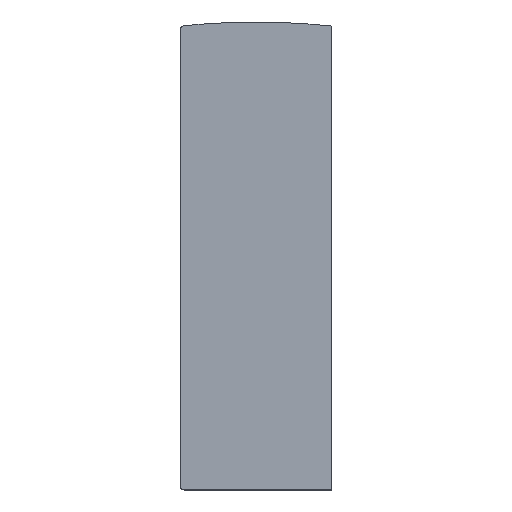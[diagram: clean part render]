
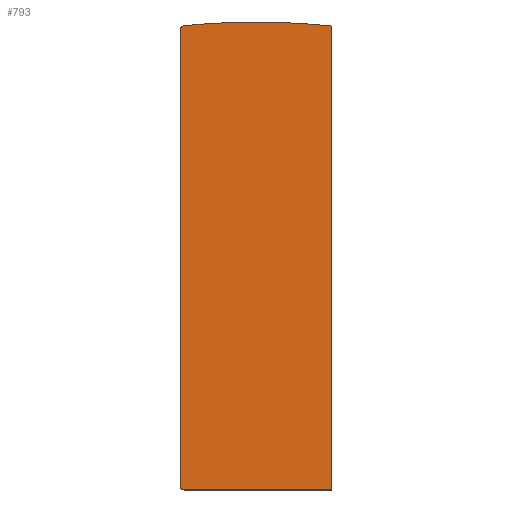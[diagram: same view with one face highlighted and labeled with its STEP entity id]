
A CAD part, top view. The second image highlights one B-rep face of the part: STEP entity #793.
In plain terms, the highlighted planar face has unit normal (0, 0, 1).
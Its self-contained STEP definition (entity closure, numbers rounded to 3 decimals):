
#25=CIRCLE('',#853,305.053);
#30=CIRCLE('',#862,2.);
#31=CIRCLE('',#863,2.);
#68=FACE_OUTER_BOUND('',#112,.T.);
#112=EDGE_LOOP('',(#660,#661,#662,#663,#664,#665,#666,#667));
#202=LINE('',#1341,#290);
#211=LINE('',#1369,#299);
#212=LINE('',#1373,#300);
#213=LINE('',#1375,#301);
#214=LINE('',#1376,#302);
#290=VECTOR('',#989,10.);
#299=VECTOR('',#1014,10.);
#300=VECTOR('',#1017,10.);
#301=VECTOR('',#1018,10.);
#302=VECTOR('',#1019,10.);
#373=VERTEX_POINT('',#1331);
#374=VERTEX_POINT('',#1333);
#376=VERTEX_POINT('',#1339);
#386=VERTEX_POINT('',#1366);
#387=VERTEX_POINT('',#1368);
#388=VERTEX_POINT('',#1370);
#389=VERTEX_POINT('',#1372);
#390=VERTEX_POINT('',#1374);
#470=EDGE_CURVE('',#374,#373,#25,.T.);
#474=EDGE_CURVE('',#373,#376,#202,.T.);
#487=EDGE_CURVE('',#376,#386,#30,.T.);
#488=EDGE_CURVE('',#386,#387,#211,.T.);
#489=EDGE_CURVE('',#387,#388,#31,.T.);
#490=EDGE_CURVE('',#388,#389,#212,.T.);
#491=EDGE_CURVE('',#389,#390,#213,.T.);
#492=EDGE_CURVE('',#390,#374,#214,.T.);
#660=ORIENTED_EDGE('',*,*,#487,.T.);
#661=ORIENTED_EDGE('',*,*,#488,.T.);
#662=ORIENTED_EDGE('',*,*,#489,.T.);
#663=ORIENTED_EDGE('',*,*,#490,.T.);
#664=ORIENTED_EDGE('',*,*,#491,.T.);
#665=ORIENTED_EDGE('',*,*,#492,.T.);
#666=ORIENTED_EDGE('',*,*,#470,.T.);
#667=ORIENTED_EDGE('',*,*,#474,.T.);
#754=PLANE('',#861);
#793=ADVANCED_FACE('',(#68),#754,.T.);
#853=AXIS2_PLACEMENT_3D('',#1334,#982,#983);
#861=AXIS2_PLACEMENT_3D('',#1365,#1010,#1011);
#862=AXIS2_PLACEMENT_3D('',#1367,#1012,#1013);
#863=AXIS2_PLACEMENT_3D('',#1371,#1015,#1016);
#982=DIRECTION('center_axis',(0.,0.,1.));
#983=DIRECTION('ref_axis',(0.087,0.996,0.));
#989=DIRECTION('',(-0.996,-0.087,0.));
#1010=DIRECTION('center_axis',(0.,0.,1.));
#1011=DIRECTION('ref_axis',(1.,0.,0.));
#1012=DIRECTION('center_axis',(0.,0.,1.));
#1013=DIRECTION('ref_axis',(-0.087,0.996,0.));
#1014=DIRECTION('',(0.,-1.,0.));
#1015=DIRECTION('center_axis',(0.,0.,1.));
#1016=DIRECTION('ref_axis',(-1.,0.,0.));
#1017=DIRECTION('',(1.,0.,0.));
#1018=DIRECTION('',(0.,1.,0.));
#1019=DIRECTION('',(-0.996,0.087,0.));
#1331=CARTESIAN_POINT('',(-26.587,233.839,2.));
#1333=CARTESIAN_POINT('',(26.587,233.839,2.));
#1334=CARTESIAN_POINT('Origin',(0.,-70.054,
2.));
#1339=CARTESIAN_POINT('',(-36.174,233.,2.));
#1341=CARTESIAN_POINT('',(-26.587,233.839,2.));
#1365=CARTESIAN_POINT('Origin',(0.,117.5,
2.));
#1366=CARTESIAN_POINT('',(-38.,231.008,2.));
#1367=CARTESIAN_POINT('Origin',(-36.,231.008,2.));
#1368=CARTESIAN_POINT('',(-38.,2.,2.));
#1369=CARTESIAN_POINT('',(-38.,231.008,2.));
#1370=CARTESIAN_POINT('',(-36.,0.,2.));
#1371=CARTESIAN_POINT('Origin',(-36.,2.,2.));
#1372=CARTESIAN_POINT('',(38.,0.,2.));
#1373=CARTESIAN_POINT('',(-36.,0.,2.));
#1374=CARTESIAN_POINT('',(38.,232.84,2.));
#1375=CARTESIAN_POINT('',(38.,0.,2.));
#1376=CARTESIAN_POINT('',(38.,232.84,2.));
